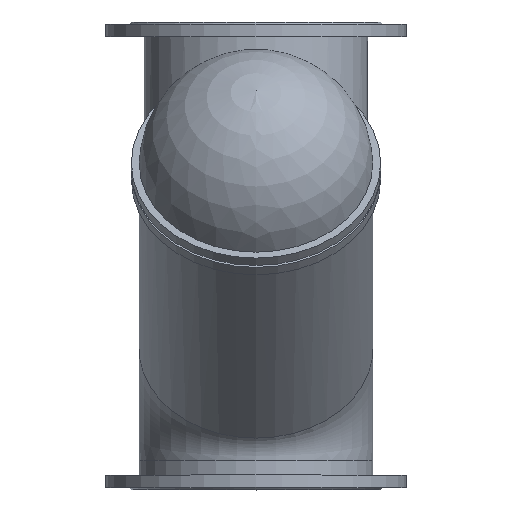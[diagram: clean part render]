
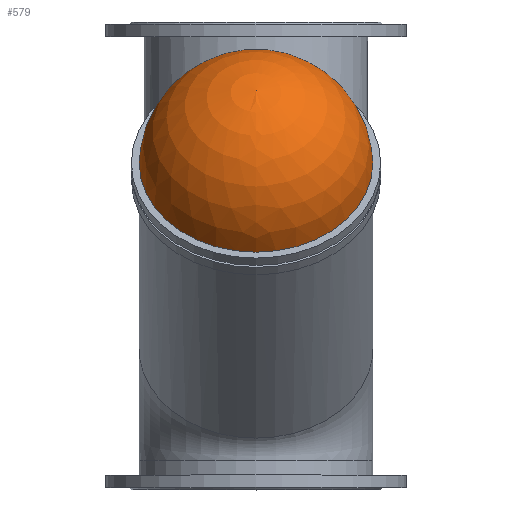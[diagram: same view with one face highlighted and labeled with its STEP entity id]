
A CAD part, top view. The second image highlights one B-rep face of the part: STEP entity #579.
In plain terms, the highlighted spherical face has radius 225.233 mm.
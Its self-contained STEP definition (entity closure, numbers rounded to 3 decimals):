
#579=ADVANCED_FACE('',(#1241),#1243,.T.);
#1241=FACE_OUTER_BOUND('',#1242,.T.);
#1242=EDGE_LOOP('',(#1457));
#1243=SPHERICAL_SURFACE('',#1244,225.233);
#1244=AXIS2_PLACEMENT_3D('',#1245,#1246,#1247);
#1245=CARTESIAN_POINT('',(0.,172.03,517.892));
#1246=DIRECTION('',(0.,0.643,0.766));
#1247=DIRECTION('',(0.,-0.766,0.643));
#1457=ORIENTED_EDGE('',*,*,#1562,.T.);
#1562=EDGE_CURVE('',#1767,#1767,#1768,.T.);
#1767=VERTEX_POINT('',#2668);
#1768=CIRCLE('',#2669,225.);
#2668=CARTESIAN_POINT('',(0.,6.247,670.358));
#2669=AXIS2_PLACEMENT_3D('',#2670,#2671,#2672);
#2670=CARTESIAN_POINT('',(0.,178.607,525.731));
#2671=DIRECTION('',(0.,0.643,0.766));
#2672=DIRECTION('',(0.,-0.766,0.643));
